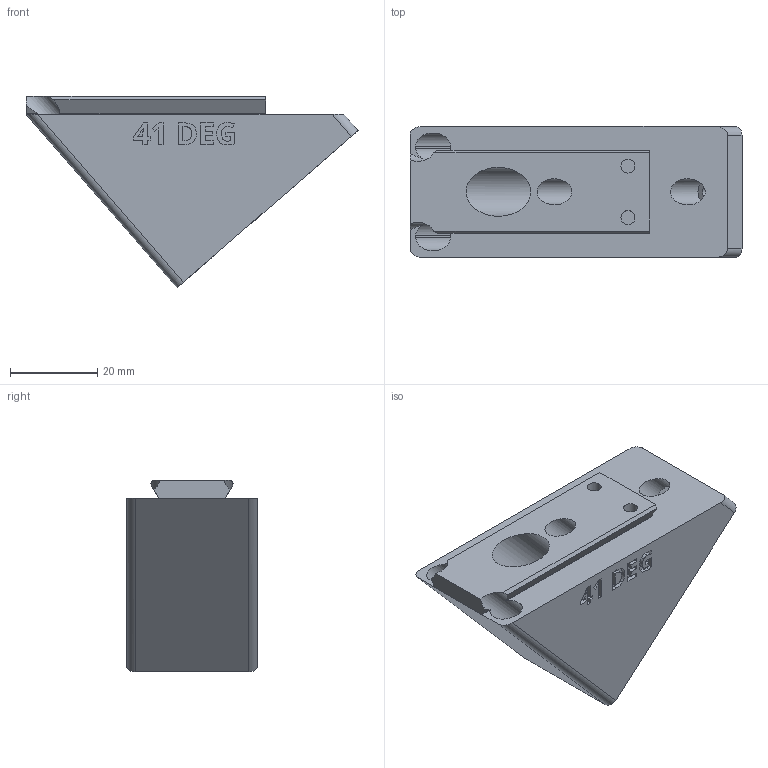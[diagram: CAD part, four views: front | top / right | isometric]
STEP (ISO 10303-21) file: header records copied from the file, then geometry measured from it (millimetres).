
FILE_DESCRIPTION(/* description */ ('STEP AP242 Edition 2','CAx-IF Rec.Pracs.---Representation and Presentation of Product Manufacturing Information (PMI)---4.0---2014-10-13','CAx-IF Rec.Pracs.---3D Tessellated Geometry---0.4---2014-09-14','2;1','CAx-IF Rec.Pracs.---User Defined Attributes---1.5---2016-08-15'),/* implementation_level */ '2;1');
FILE_NAME(/* name */ 'Camera Wedges - CAMERA MOUNTING WEDGE, POS, 41 DEG',/* time_stamp */ '2026-07-08T20:40:26Z',/* author */ (''),/* organization */ (''),/* preprocessor_version */ 'ST-DEVELOPER v20',/* originating_system */ 'ONSHAPE BY PTC INC, 1.217',/* authorisation */ ' ');
FILE_SCHEMA (('AP242_MANAGED_MODEL_BASED_3D_ENGINEERING_MIM_LF { 1 0 10303 442 3 1 4 }'));
Length unit declared in the file: metre
Products named in the file (1): CAMERA MOUNTING WEDGE, POS, 41 DEG
Bounding box: 76.16 x 30 x 43.96 mm (x, y, z)
Volume: 42554 mm3; surface area: 13733.7 mm2
Topology: 1 solids, 1 shells, 231 faces, 628 edges, 419 vertices
Faces by surface type: plane 159, cylinder 42, bspline 30
Full cylindrical faces by diameter (mm): 3.2 x4, 6 x2, 6.4 x1, 11.2 x1
Entity records: 7321 total; most frequent: CARTESIAN_POINT 1595, ORIENTED_EDGE 1234, DIRECTION 1057, EDGE_CURVE 617, LINE 461, VECTOR 461, VERTEX_POINT 416, AXIS2_PLACEMENT_3D 298
